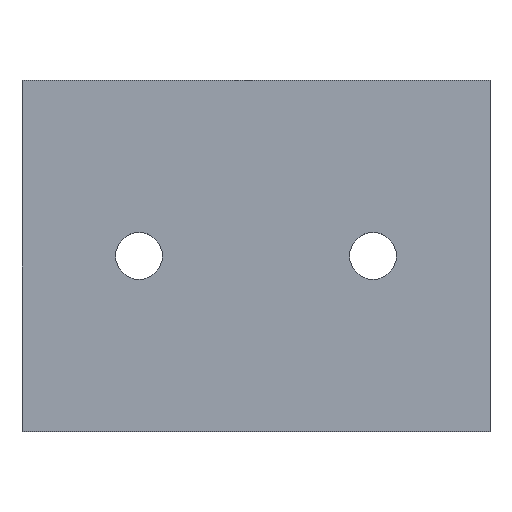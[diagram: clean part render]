
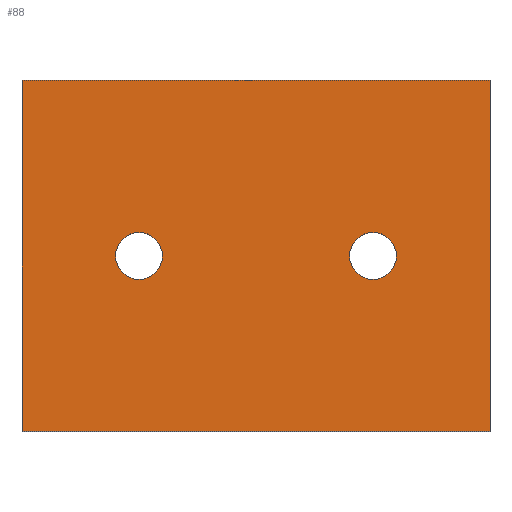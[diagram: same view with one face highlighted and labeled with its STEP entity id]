
A CAD part, top view. The second image highlights one B-rep face of the part: STEP entity #88.
In plain terms, the highlighted planar face has unit normal (0, 0, 1).
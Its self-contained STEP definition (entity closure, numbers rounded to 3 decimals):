
#24 = VERTEX_POINT('',#25);
#25 = CARTESIAN_POINT('',(0.,0.,6.));
#40 = VERTEX_POINT('',#41);
#41 = CARTESIAN_POINT('',(0.,60.,6.));
#47 = EDGE_CURVE('',#24,#40,#48,.T.);
#48 = LINE('',#49,#50);
#49 = CARTESIAN_POINT('',(0.,0.,6.));
#50 = VECTOR('',#51,1.);
#51 = DIRECTION('',(0.,1.,0.));
#70 = EDGE_CURVE('',#24,#71,#73,.T.);
#71 = VERTEX_POINT('',#72);
#72 = CARTESIAN_POINT('',(80.,0.,6.));
#73 = LINE('',#74,#75);
#74 = CARTESIAN_POINT('',(0.,0.,6.));
#75 = VECTOR('',#76,1.);
#76 = DIRECTION('',(1.,0.,0.));
#88 = ADVANCED_FACE('',(#89,#107,#118),#129,.T.);
#89 = FACE_BOUND('',#90,.T.);
#90 = EDGE_LOOP('',(#91,#92,#93,#101));
#91 = ORIENTED_EDGE('',*,*,#47,.F.);
#92 = ORIENTED_EDGE('',*,*,#70,.T.);
#93 = ORIENTED_EDGE('',*,*,#94,.T.);
#94 = EDGE_CURVE('',#71,#95,#97,.T.);
#95 = VERTEX_POINT('',#96);
#96 = CARTESIAN_POINT('',(80.,60.,6.));
#97 = LINE('',#98,#99);
#98 = CARTESIAN_POINT('',(80.,0.,6.));
#99 = VECTOR('',#100,1.);
#100 = DIRECTION('',(0.,1.,0.));
#101 = ORIENTED_EDGE('',*,*,#102,.F.);
#102 = EDGE_CURVE('',#40,#95,#103,.T.);
#103 = LINE('',#104,#105);
#104 = CARTESIAN_POINT('',(0.,60.,6.));
#105 = VECTOR('',#106,1.);
#106 = DIRECTION('',(1.,0.,0.));
#107 = FACE_BOUND('',#108,.T.);
#108 = EDGE_LOOP('',(#109));
#109 = ORIENTED_EDGE('',*,*,#110,.F.);
#110 = EDGE_CURVE('',#111,#111,#113,.T.);
#111 = VERTEX_POINT('',#112);
#112 = CARTESIAN_POINT('',(24.,30.,6.));
#113 = CIRCLE('',#114,4.);
#114 = AXIS2_PLACEMENT_3D('',#115,#116,#117);
#115 = CARTESIAN_POINT('',(20.,30.,6.));
#116 = DIRECTION('',(0.,0.,1.));
#117 = DIRECTION('',(1.,0.,0.));
#118 = FACE_BOUND('',#119,.T.);
#119 = EDGE_LOOP('',(#120));
#120 = ORIENTED_EDGE('',*,*,#121,.F.);
#121 = EDGE_CURVE('',#122,#122,#124,.T.);
#122 = VERTEX_POINT('',#123);
#123 = CARTESIAN_POINT('',(64.,30.,6.));
#124 = CIRCLE('',#125,4.);
#125 = AXIS2_PLACEMENT_3D('',#126,#127,#128);
#126 = CARTESIAN_POINT('',(60.,30.,6.));
#127 = DIRECTION('',(0.,0.,1.));
#128 = DIRECTION('',(1.,0.,0.));
#129 = PLANE('',#130);
#130 = AXIS2_PLACEMENT_3D('',#131,#132,#133);
#131 = CARTESIAN_POINT('',(0.,0.,6.));
#132 = DIRECTION('',(0.,0.,1.));
#133 = DIRECTION('',(1.,0.,0.));
